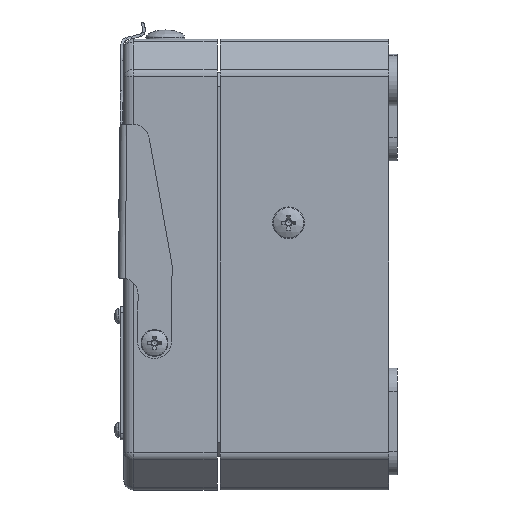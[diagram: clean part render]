
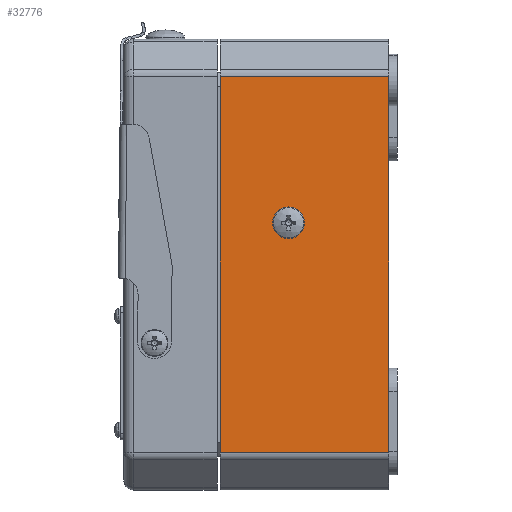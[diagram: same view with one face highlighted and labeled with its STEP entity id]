
A CAD part, left-side view. The second image highlights one B-rep face of the part: STEP entity #32776.
In plain terms, the highlighted planar face has unit normal (-1, 0, 0).
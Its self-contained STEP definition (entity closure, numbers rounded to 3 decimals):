
#1612 = EDGE_LOOP ( 'NONE', ( #3333, #4974, #25404, #53054 ) ) ;
#3333 = ORIENTED_EDGE ( 'NONE', *, *, #10058, .T. ) ;
#4300 = DIRECTION ( 'NONE',  ( 0., 0., 1. ) ) ;
#4947 = CARTESIAN_POINT ( 'NONE',  ( -67.5, 50.5, 56.257 ) ) ;
#4974 = ORIENTED_EDGE ( 'NONE', *, *, #39255, .T. ) ;
#6194 = LINE ( 'NONE', #15118, #51006 ) ;
#8547 = CARTESIAN_POINT ( 'NONE',  ( -67.5, 50.5, -67.5 ) ) ;
#9763 = LINE ( 'NONE', #8547, #31469 ) ;
#10058 = EDGE_CURVE ( 'NONE', #51994, #50900, #20943, .T. ) ;
#11001 = CARTESIAN_POINT ( 'NONE',  ( -67.5, 50.5, -56.257 ) ) ;
#14149 = CARTESIAN_POINT ( 'NONE',  ( -67.5, 0., 56.257 ) ) ;
#14151 = FACE_BOUND ( 'NONE', #39399, .T. ) ;
#15118 = CARTESIAN_POINT ( 'NONE',  ( -67.5, 0., -56.257 ) ) ;
#17288 = DIRECTION ( 'NONE',  ( 0., 0., 1. ) ) ;
#19684 = CARTESIAN_POINT ( 'NONE',  ( -67.5, 50.5, -67.5 ) ) ;
#19822 = DIRECTION ( 'NONE',  ( 0., -1., 0. ) ) ;
#20061 = EDGE_CURVE ( 'NONE', #48154, #39410, #9763, .T. ) ;
#20943 = LINE ( 'NONE', #38464, #43999 ) ;
#22452 = CARTESIAN_POINT ( 'NONE',  ( -67.5, 30., 12.5 ) ) ;
#22743 = AXIS2_PLACEMENT_3D ( 'NONE', #22452, #52778, #26808 ) ;
#24029 = DIRECTION ( 'NONE',  ( 0., 0., -1. ) ) ;
#25404 = ORIENTED_EDGE ( 'NONE', *, *, #20061, .F. ) ;
#26808 = DIRECTION ( 'NONE',  ( 0., 0., 1. ) ) ;
#27291 = AXIS2_PLACEMENT_3D ( 'NONE', #19684, #50052, #24029 ) ;
#27723 = CARTESIAN_POINT ( 'NONE',  ( -67.5, 50.5, 56.257 ) ) ;
#28249 = PLANE ( 'NONE',  #27291 ) ;
#28645 = VERTEX_POINT ( 'NONE', #50584 ) ;
#30321 = ORIENTED_EDGE ( 'NONE', *, *, #43936, .F. ) ;
#31469 = VECTOR ( 'NONE', #17288, 1000. ) ;
#32776 = ADVANCED_FACE ( 'NONE', ( #14151, #34479 ), #28249, .F. ) ;
#33593 = CARTESIAN_POINT ( 'NONE',  ( -67.5, 0., -56.257 ) ) ;
#34479 = FACE_OUTER_BOUND ( 'NONE', #1612, .T. ) ;
#34601 = EDGE_CURVE ( 'NONE', #48154, #51994, #6194, .T. ) ;
#35301 = DIRECTION ( 'NONE',  ( 0., 1., 0. ) ) ;
#37940 = LINE ( 'NONE', #4947, #48112 ) ;
#38464 = CARTESIAN_POINT ( 'NONE',  ( -67.5, 0., -67.5 ) ) ;
#39255 = EDGE_CURVE ( 'NONE', #50900, #39410, #37940, .T. ) ;
#39399 = EDGE_LOOP ( 'NONE', ( #30321 ) ) ;
#39410 = VERTEX_POINT ( 'NONE', #27723 ) ;
#43936 = EDGE_CURVE ( 'NONE', #28645, #28645, #45326, .T. ) ;
#43999 = VECTOR ( 'NONE', #4300, 1000. ) ;
#45326 = CIRCLE ( 'NONE', #22743, 2.25 ) ;
#48112 = VECTOR ( 'NONE', #35301, 1000. ) ;
#48154 = VERTEX_POINT ( 'NONE', #11001 ) ;
#50052 = DIRECTION ( 'NONE',  ( 1., 0., 0. ) ) ;
#50584 = CARTESIAN_POINT ( 'NONE',  ( -67.5, 30., 14.75 ) ) ;
#50900 = VERTEX_POINT ( 'NONE', #14149 ) ;
#51006 = VECTOR ( 'NONE', #19822, 1000. ) ;
#51994 = VERTEX_POINT ( 'NONE', #33593 ) ;
#52778 = DIRECTION ( 'NONE',  ( -1., 0., 0. ) ) ;
#53054 = ORIENTED_EDGE ( 'NONE', *, *, #34601, .T. ) ;
